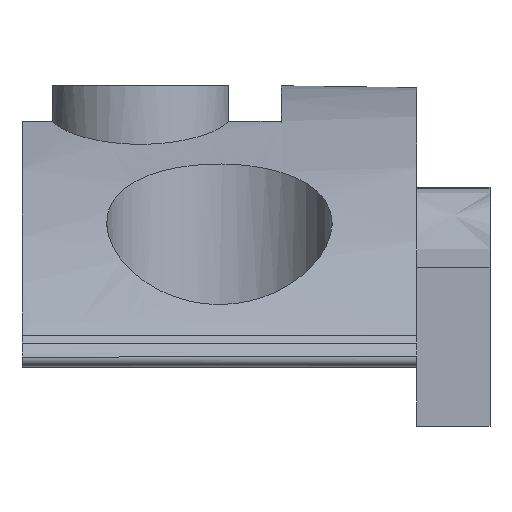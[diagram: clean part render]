
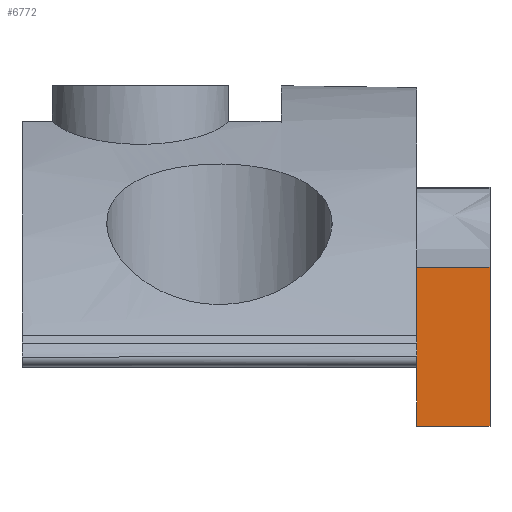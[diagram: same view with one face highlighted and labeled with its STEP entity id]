
A CAD part, left-side view. The second image highlights one B-rep face of the part: STEP entity #6772.
In plain terms, the highlighted planar face has unit normal (-1, 0, 0).
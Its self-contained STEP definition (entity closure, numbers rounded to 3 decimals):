
#3117 = PLANE('',#3118);
#3118 = AXIS2_PLACEMENT_3D('',#3119,#3120,#3121);
#3119 = CARTESIAN_POINT('',(-7.788,5.752,
    1.925));
#3120 = DIRECTION('',(0.,-1.,0.));
#3121 = DIRECTION('',(-0.,0.,1.));
#3235 = PLANE('',#3236);
#3236 = AXIS2_PLACEMENT_3D('',#3237,#3238,#3239);
#3237 = CARTESIAN_POINT('',(-7.618,4.452,2.648
    ));
#3238 = DIRECTION('',(0.,1.,0.));
#3239 = DIRECTION('',(0.,0.,-1.));
#3978 = VERTEX_POINT('',#3979);
#3979 = CARTESIAN_POINT('',(-11.363,4.452,
    -1.038));
#3986 = PLANE('',#3987);
#3987 = AXIS2_PLACEMENT_3D('',#3988,#3989,#3990);
#3988 = CARTESIAN_POINT('',(-7.618,5.102,
    -1.038));
#3989 = DIRECTION('',(0.,0.,1.));
#3990 = DIRECTION('',(0.,1.,0.));
#4005 = EDGE_CURVE('',#3978,#4006,#4008,.T.);
#4006 = VERTEX_POINT('',#4007);
#4007 = CARTESIAN_POINT('',(-11.363,5.752,
    -1.038));
#4008 = SURFACE_CURVE('',#4009,(#4013,#4020),.PCURVE_S1.);
#4009 = LINE('',#4010,#4011);
#4010 = CARTESIAN_POINT('',(-11.363,4.452,
    -1.038));
#4011 = VECTOR('',#4012,1.);
#4012 = DIRECTION('',(0.,1.,0.));
#4013 = PCURVE('',#3986,#4014);
#4014 = DEFINITIONAL_REPRESENTATION('',(#4015),#4019);
#4015 = LINE('',#4016,#4017);
#4016 = CARTESIAN_POINT('',(-0.65,3.744));
#4017 = VECTOR('',#4018,1.);
#4018 = DIRECTION('',(1.,0.));
#4019 = ( GEOMETRIC_REPRESENTATION_CONTEXT(2) 
PARAMETRIC_REPRESENTATION_CONTEXT() REPRESENTATION_CONTEXT('2D SPACE',''
  ) );
#4020 = PCURVE('',#4021,#4026);
#4021 = PLANE('',#4022);
#4022 = AXIS2_PLACEMENT_3D('',#4023,#4024,#4025);
#4023 = CARTESIAN_POINT('',(-11.363,5.232,0.298
    ));
#4024 = DIRECTION('',(-1.,-0.,-0.));
#4025 = DIRECTION('',(0.,0.,-1.));
#4026 = DEFINITIONAL_REPRESENTATION('',(#4027),#4031);
#4027 = LINE('',#4028,#4029);
#4028 = CARTESIAN_POINT('',(1.335,0.78));
#4029 = VECTOR('',#4030,1.);
#4030 = DIRECTION('',(0.,-1.));
#4031 = ( GEOMETRIC_REPRESENTATION_CONTEXT(2) 
PARAMETRIC_REPRESENTATION_CONTEXT() REPRESENTATION_CONTEXT('2D SPACE',''
  ) );
#4049 = PLANE('',#4050);
#4050 = AXIS2_PLACEMENT_3D('',#4051,#4052,#4053);
#4051 = CARTESIAN_POINT('',(-7.618,5.752,
    -0.519));
#4052 = DIRECTION('',(-0.,-1.,-0.));
#4053 = DIRECTION('',(0.,0.,1.));
#4114 = VERTEX_POINT('',#4115);
#4115 = CARTESIAN_POINT('',(-11.363,5.752,
    0.));
#6398 = EDGE_CURVE('',#4114,#6399,#6401,.T.);
#6399 = VERTEX_POINT('',#6400);
#6400 = CARTESIAN_POINT('',(-11.363,5.752,1.782
    ));
#6401 = SURFACE_CURVE('',#6402,(#6406,#6413),.PCURVE_S1.);
#6402 = LINE('',#6403,#6404);
#6403 = CARTESIAN_POINT('',(-11.363,5.752,
    0.));
#6404 = VECTOR('',#6405,1.);
#6405 = DIRECTION('',(0.,0.,1.));
#6406 = PCURVE('',#3117,#6407);
#6407 = DEFINITIONAL_REPRESENTATION('',(#6408),#6412);
#6408 = LINE('',#6409,#6410);
#6409 = CARTESIAN_POINT('',(-1.925,3.574));
#6410 = VECTOR('',#6411,1.);
#6411 = DIRECTION('',(1.,0.));
#6412 = ( GEOMETRIC_REPRESENTATION_CONTEXT(2) 
PARAMETRIC_REPRESENTATION_CONTEXT() REPRESENTATION_CONTEXT('2D SPACE',''
  ) );
#6413 = PCURVE('',#4021,#6414);
#6414 = DEFINITIONAL_REPRESENTATION('',(#6415),#6419);
#6415 = LINE('',#6416,#6417);
#6416 = CARTESIAN_POINT('',(0.298,-0.52));
#6417 = VECTOR('',#6418,1.);
#6418 = DIRECTION('',(-1.,0.));
#6419 = ( GEOMETRIC_REPRESENTATION_CONTEXT(2) 
PARAMETRIC_REPRESENTATION_CONTEXT() REPRESENTATION_CONTEXT('2D SPACE',''
  ) );
#6453 = B_SPLINE_SURFACE_WITH_KNOTS('',3,3,(
    (#6454,#6455,#6456,#6457,#6458)
    ,(#6459,#6460,#6461,#6462,#6463)
    ,(#6464,#6465,#6466,#6467,#6468)
    ,(#6469,#6470,#6471,#6472,#6473)
    ,(#6474,#6475,#6476,#6477,#6478
  )),.UNSPECIFIED.,.F.,.F.,.F.,(4,1,4),(4,1,4),(-0.755,
    0.,0.755),(-0.957,
    0.055,1.066),.UNSPECIFIED.);
#6454 = CARTESIAN_POINT('',(-10.118,4.347,3.2)
  );
#6455 = CARTESIAN_POINT('',(-10.618,4.347,3.161)
  );
#6456 = CARTESIAN_POINT('',(-11.246,4.347,2.794)
  );
#6457 = CARTESIAN_POINT('',(-11.396,4.347,2.057)
  );
#6458 = CARTESIAN_POINT('',(-11.349,4.347,1.594)
  );
#6459 = CARTESIAN_POINT('',(-10.117,4.599,3.199)
  );
#6460 = CARTESIAN_POINT('',(-10.619,4.599,3.161)
  );
#6461 = CARTESIAN_POINT('',(-11.246,4.599,2.794)
  );
#6462 = CARTESIAN_POINT('',(-11.396,4.599,2.057)
  );
#6463 = CARTESIAN_POINT('',(-11.349,4.599,1.594)
  );
#6464 = CARTESIAN_POINT('',(-10.118,5.102,3.2));
#6465 = CARTESIAN_POINT('',(-10.618,5.102,3.161)
  );
#6466 = CARTESIAN_POINT('',(-11.246,5.102,2.794)
  );
#6467 = CARTESIAN_POINT('',(-11.396,5.102,2.057));
#6468 = CARTESIAN_POINT('',(-11.349,5.102,1.594)
  );
#6469 = CARTESIAN_POINT('',(-10.117,5.606,3.199)
  );
#6470 = CARTESIAN_POINT('',(-10.619,5.606,3.161)
  );
#6471 = CARTESIAN_POINT('',(-11.246,5.606,2.794)
  );
#6472 = CARTESIAN_POINT('',(-11.396,5.606,2.057)
  );
#6473 = CARTESIAN_POINT('',(-11.349,5.606,1.594)
  );
#6474 = CARTESIAN_POINT('',(-10.118,5.857,3.2)
  );
#6475 = CARTESIAN_POINT('',(-10.618,5.857,3.161)
  );
#6476 = CARTESIAN_POINT('',(-11.246,5.857,2.794)
  );
#6477 = CARTESIAN_POINT('',(-11.396,5.857,2.057)
  );
#6478 = CARTESIAN_POINT('',(-11.349,5.857,1.594)
  );
#6615 = EDGE_CURVE('',#6399,#6616,#6618,.T.);
#6616 = VERTEX_POINT('',#6617);
#6617 = CARTESIAN_POINT('',(-11.363,4.452,1.782
    ));
#6618 = SURFACE_CURVE('',#6619,(#6623,#6629),.PCURVE_S1.);
#6619 = LINE('',#6620,#6621);
#6620 = CARTESIAN_POINT('',(-11.363,5.752,1.782
    ));
#6621 = VECTOR('',#6622,1.);
#6622 = DIRECTION('',(0.,-1.,0.));
#6623 = PCURVE('',#6453,#6624);
#6624 = DEFINITIONAL_REPRESENTATION('',(#6625),#6628);
#6625 = B_SPLINE_CURVE_WITH_KNOTS('',1,(#6626,#6627),.UNSPECIFIED.,.F.,
  .F.,(2,2),(0.,1.3),.PIECEWISE_BEZIER_KNOTS.);
#6626 = CARTESIAN_POINT('',(0.65,0.925));
#6627 = CARTESIAN_POINT('',(-0.65,0.925));
#6628 = ( GEOMETRIC_REPRESENTATION_CONTEXT(2) 
PARAMETRIC_REPRESENTATION_CONTEXT() REPRESENTATION_CONTEXT('2D SPACE',''
  ) );
#6629 = PCURVE('',#4021,#6630);
#6630 = DEFINITIONAL_REPRESENTATION('',(#6631),#6635);
#6631 = LINE('',#6632,#6633);
#6632 = CARTESIAN_POINT('',(-1.484,-0.52));
#6633 = VECTOR('',#6634,1.);
#6634 = DIRECTION('',(0.,1.));
#6635 = ( GEOMETRIC_REPRESENTATION_CONTEXT(2) 
PARAMETRIC_REPRESENTATION_CONTEXT() REPRESENTATION_CONTEXT('2D SPACE',''
  ) );
#6772 = ADVANCED_FACE('',(#6773),#4021,.T.);
#6773 = FACE_BOUND('',#6774,.T.);
#6774 = EDGE_LOOP('',(#6775,#6776,#6777,#6798,#6799));
#6775 = ORIENTED_EDGE('',*,*,#6615,.F.);
#6776 = ORIENTED_EDGE('',*,*,#6398,.F.);
#6777 = ORIENTED_EDGE('',*,*,#6778,.T.);
#6778 = EDGE_CURVE('',#4114,#4006,#6779,.T.);
#6779 = SURFACE_CURVE('',#6780,(#6784,#6791),.PCURVE_S1.);
#6780 = LINE('',#6781,#6782);
#6781 = CARTESIAN_POINT('',(-11.363,5.752,
    0.));
#6782 = VECTOR('',#6783,1.);
#6783 = DIRECTION('',(0.,0.,-1.));
#6784 = PCURVE('',#4021,#6785);
#6785 = DEFINITIONAL_REPRESENTATION('',(#6786),#6790);
#6786 = LINE('',#6787,#6788);
#6787 = CARTESIAN_POINT('',(0.298,-0.52));
#6788 = VECTOR('',#6789,1.);
#6789 = DIRECTION('',(1.,0.));
#6790 = ( GEOMETRIC_REPRESENTATION_CONTEXT(2) 
PARAMETRIC_REPRESENTATION_CONTEXT() REPRESENTATION_CONTEXT('2D SPACE',''
  ) );
#6791 = PCURVE('',#4049,#6792);
#6792 = DEFINITIONAL_REPRESENTATION('',(#6793),#6797);
#6793 = LINE('',#6794,#6795);
#6794 = CARTESIAN_POINT('',(0.519,3.744));
#6795 = VECTOR('',#6796,1.);
#6796 = DIRECTION('',(-1.,0.));
#6797 = ( GEOMETRIC_REPRESENTATION_CONTEXT(2) 
PARAMETRIC_REPRESENTATION_CONTEXT() REPRESENTATION_CONTEXT('2D SPACE',''
  ) );
#6798 = ORIENTED_EDGE('',*,*,#4005,.F.);
#6799 = ORIENTED_EDGE('',*,*,#6800,.T.);
#6800 = EDGE_CURVE('',#3978,#6616,#6801,.T.);
#6801 = SURFACE_CURVE('',#6802,(#6806,#6813),.PCURVE_S1.);
#6802 = LINE('',#6803,#6804);
#6803 = CARTESIAN_POINT('',(-11.363,4.452,
    -1.038));
#6804 = VECTOR('',#6805,1.);
#6805 = DIRECTION('',(0.,0.,1.));
#6806 = PCURVE('',#4021,#6807);
#6807 = DEFINITIONAL_REPRESENTATION('',(#6808),#6812);
#6808 = LINE('',#6809,#6810);
#6809 = CARTESIAN_POINT('',(1.335,0.78));
#6810 = VECTOR('',#6811,1.);
#6811 = DIRECTION('',(-1.,0.));
#6812 = ( GEOMETRIC_REPRESENTATION_CONTEXT(2) 
PARAMETRIC_REPRESENTATION_CONTEXT() REPRESENTATION_CONTEXT('2D SPACE',''
  ) );
#6813 = PCURVE('',#3235,#6814);
#6814 = DEFINITIONAL_REPRESENTATION('',(#6815),#6819);
#6815 = LINE('',#6816,#6817);
#6816 = CARTESIAN_POINT('',(3.686,3.744));
#6817 = VECTOR('',#6818,1.);
#6818 = DIRECTION('',(-1.,0.));
#6819 = ( GEOMETRIC_REPRESENTATION_CONTEXT(2) 
PARAMETRIC_REPRESENTATION_CONTEXT() REPRESENTATION_CONTEXT('2D SPACE',''
  ) );
